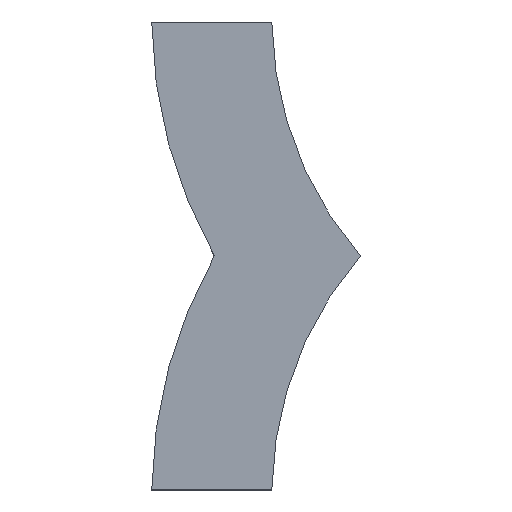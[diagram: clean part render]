
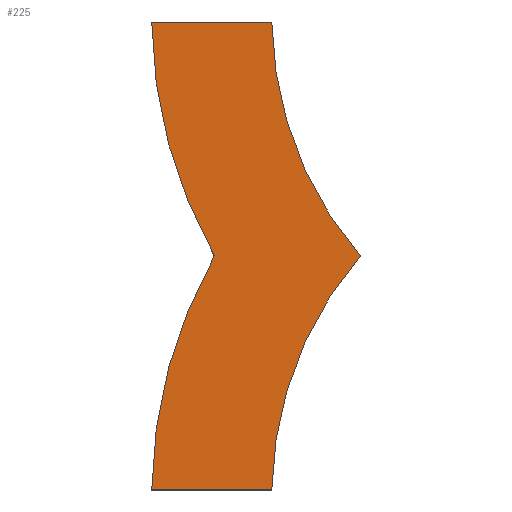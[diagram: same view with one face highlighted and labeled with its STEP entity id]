
A CAD part, top view. The second image highlights one B-rep face of the part: STEP entity #225.
In plain terms, the highlighted planar face has unit normal (0, 0, 1).
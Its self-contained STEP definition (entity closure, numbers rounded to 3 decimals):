
#24 = VERTEX_POINT('',#25);
#25 = CARTESIAN_POINT('',(-59.997,28.845,1.));
#31 = EDGE_CURVE('',#24,#32,#34,.T.);
#32 = VERTEX_POINT('',#33);
#33 = CARTESIAN_POINT('',(-52.278,0.,1.));
#34 = CIRCLE('',#35,60.082);
#35 = AXIS2_PLACEMENT_3D('',#36,#37,#38);
#36 = CARTESIAN_POINT('',(0.082,29.467,1.));
#37 = DIRECTION('',(0.,0.,1.));
#38 = DIRECTION('',(1.,0.,0.));
#64 = EDGE_CURVE('',#32,#65,#67,.T.);
#65 = VERTEX_POINT('',#66);
#66 = CARTESIAN_POINT('',(-59.997,-28.845,1.));
#67 = CIRCLE('',#68,60.);
#68 = AXIS2_PLACEMENT_3D('',#69,#70,#71);
#69 = CARTESIAN_POINT('',(0.,-29.445,1.));
#70 = DIRECTION('',(0.,0.,1.));
#71 = DIRECTION('',(1.,0.,0.));
#97 = EDGE_CURVE('',#65,#98,#100,.T.);
#98 = VERTEX_POINT('',#99);
#99 = CARTESIAN_POINT('',(-45.196,-28.845,1.));
#100 = LINE('',#101,#102);
#101 = CARTESIAN_POINT('',(-59.997,-28.845,1.));
#102 = VECTOR('',#103,1.);
#103 = DIRECTION('',(1.,0.,0.));
#130 = VERTEX_POINT('',#131);
#131 = CARTESIAN_POINT('',(-34.293,0.,1.));
#137 = EDGE_CURVE('',#130,#98,#138,.T.);
#138 = CIRCLE('',#139,45.2);
#139 = AXIS2_PLACEMENT_3D('',#140,#141,#142);
#140 = CARTESIAN_POINT('',(0.,-29.445,1.));
#141 = DIRECTION('',(0.,0.,1.));
#142 = DIRECTION('',(1.,0.,0.));
#163 = VERTEX_POINT('',#164);
#164 = CARTESIAN_POINT('',(-45.196,28.845,1.));
#170 = EDGE_CURVE('',#163,#130,#171,.T.);
#171 = CIRCLE('',#172,45.2);
#172 = AXIS2_PLACEMENT_3D('',#173,#174,#175);
#173 = CARTESIAN_POINT('',(0.,29.445,1.));
#174 = DIRECTION('',(0.,0.,1.));
#175 = DIRECTION('',(1.,0.,0.));
#194 = EDGE_CURVE('',#24,#163,#195,.T.);
#195 = LINE('',#196,#197);
#196 = CARTESIAN_POINT('',(-59.997,28.845,1.));
#197 = VECTOR('',#198,1.);
#198 = DIRECTION('',(1.,0.,0.));
#225 = ADVANCED_FACE('',(#226),#234,.T.);
#226 = FACE_BOUND('',#227,.T.);
#227 = EDGE_LOOP('',(#228,#229,#230,#231,#232,#233));
#228 = ORIENTED_EDGE('',*,*,#31,.T.);
#229 = ORIENTED_EDGE('',*,*,#64,.T.);
#230 = ORIENTED_EDGE('',*,*,#97,.T.);
#231 = ORIENTED_EDGE('',*,*,#137,.F.);
#232 = ORIENTED_EDGE('',*,*,#170,.F.);
#233 = ORIENTED_EDGE('',*,*,#194,.F.);
#234 = PLANE('',#235);
#235 = AXIS2_PLACEMENT_3D('',#236,#237,#238);
#236 = CARTESIAN_POINT('',(-49.752,0.,1.));
#237 = DIRECTION('',(0.,0.,1.));
#238 = DIRECTION('',(1.,0.,0.));
